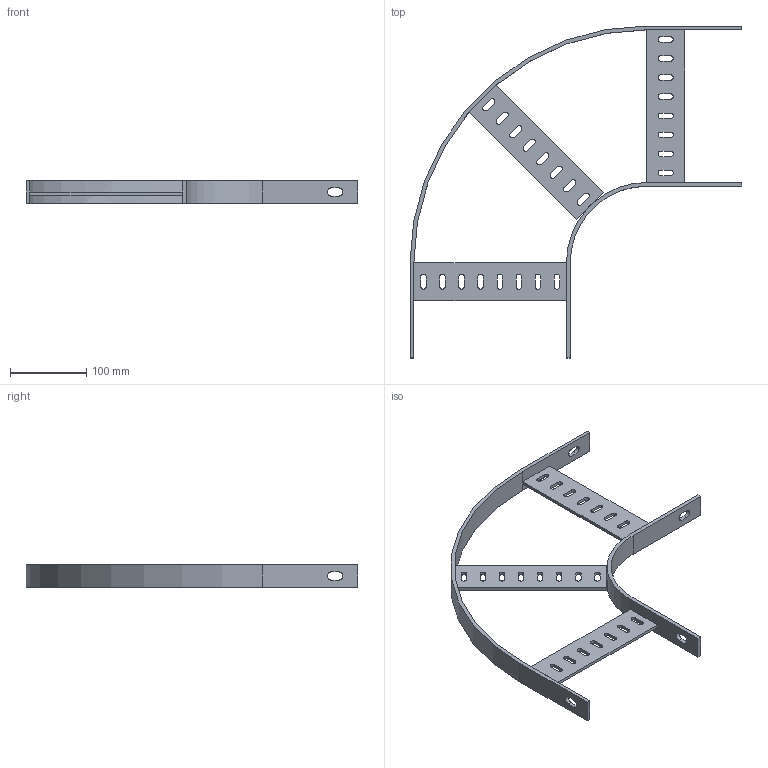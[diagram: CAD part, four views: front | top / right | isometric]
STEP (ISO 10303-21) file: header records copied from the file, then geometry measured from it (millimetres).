
FILE_DESCRIPTION(('Creo Elements/Direct Modeling STEP Export'),'2;1');
FILE_NAME('//pserver/office/EK/ME10-3D/3D-output/SLB 200F.stp','2020-03-10T15:05:20',(''),(''),'PTC Creo Elements/Direct Modeling STEP processor for AP214 (Solid Model)','PTC Creo Elements/Direct Modeling 19.0C 15-Aug-2015 (C) Parametric Technology GmbH','');
FILE_SCHEMA(('AUTOMOTIVE_DESIGN { 1 0 10303 214 1 1 1 1 }'));
Length unit declared in the file: millimetre
Products named in the file (1): SLB_200F
Bounding box: 435 x 435 x 30 mm (x, y, z)
Volume: 275224.4 mm3; surface area: 142530 mm2
Topology: 1 solids, 1 shells, 146 faces, 427 edges, 282 vertices
Faces by surface type: plane 86, cylinder 60
Entity records: 4962 total; most frequent: ORIENTED_EDGE 856, CARTESIAN_POINT 849, DIRECTION 835, EDGE_CURVE 427, VECTOR 299, LINE 299, VERTEX_POINT 282, AXIS2_PLACEMENT_3D 268
